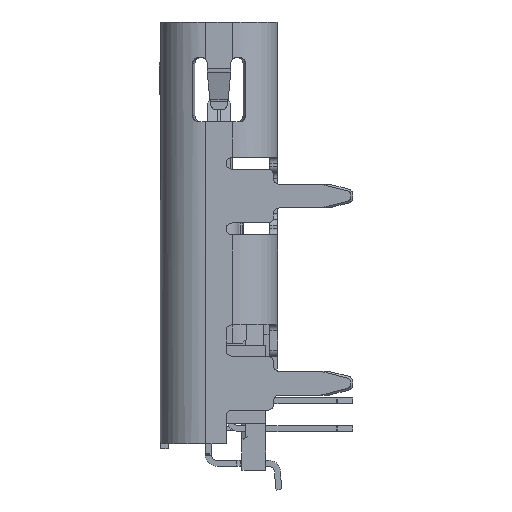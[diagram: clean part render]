
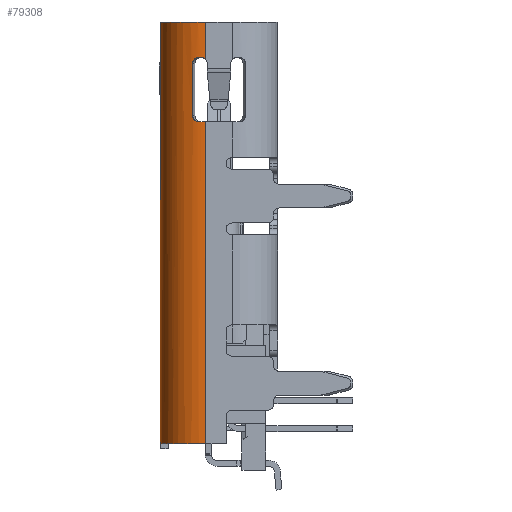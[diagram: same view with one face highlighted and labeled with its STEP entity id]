
A CAD part, left-side view. The second image highlights one B-rep face of the part: STEP entity #79308.
In plain terms, the highlighted cylindrical face has radius 1.15 mm (diameter 2.3 mm), a partial arc.
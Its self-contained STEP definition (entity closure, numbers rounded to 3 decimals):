
#397 = EDGE_CURVE ( 'NONE', #11247, #44608, #60832, .T. ) ;
#448 = CARTESIAN_POINT ( 'NONE',  ( -3.22, 1.48, -10.617 ) ) ;
#972 = CARTESIAN_POINT ( 'NONE',  ( -4.327, 0.641, -0.96 ) ) ;
#1380 = CARTESIAN_POINT ( 'NONE',  ( -4.336, 0.608, -0.927 ) ) ;
#1744 = ORIENTED_EDGE ( 'NONE', *, *, #65600, .T. ) ;
#1858 = ORIENTED_EDGE ( 'NONE', *, *, #60108, .T. ) ;
#2756 = CARTESIAN_POINT ( 'NONE',  ( -4.37, 0.33, -10.66 ) ) ;
#3934 = VECTOR ( 'NONE', #68392, 1000. ) ;
#4470 = EDGE_CURVE ( 'NONE', #13061, #30670, #74365, .T. ) ;
#4800 = VECTOR ( 'NONE', #14713, 1000. ) ;
#4965 = CARTESIAN_POINT ( 'NONE',  ( -4.32, 0.666, -2.386 ) ) ;
#5761 = DIRECTION ( 'NONE',  ( 0., 0., 1. ) ) ;
#7264 = VECTOR ( 'NONE', #81044, 1000. ) ;
#8343 = CARTESIAN_POINT ( 'NONE',  ( -3.344, 1.473, -10.66 ) ) ;
#10300 = DIRECTION ( 'NONE',  ( 0., 0., 1. ) ) ;
#10534 = ORIENTED_EDGE ( 'NONE', *, *, #31519, .F. ) ;
#11247 = VERTEX_POINT ( 'NONE', #2756 ) ;
#11964 = VERTEX_POINT ( 'NONE', #77450 ) ;
#12611 = LINE ( 'NONE', #68449, #4800 ) ;
#13061 = VERTEX_POINT ( 'NONE', #448 ) ;
#13081 = FACE_OUTER_BOUND ( 'NONE', #25821, .T. ) ;
#14713 = DIRECTION ( 'NONE',  ( 0., 0., 1. ) ) ;
#14721 = EDGE_CURVE ( 'NONE', #78640, #18955, #33843, .T. ) ;
#14975 = CARTESIAN_POINT ( 'NONE',  ( -4.37, 0.33, -0.96 ) ) ;
#15723 = CARTESIAN_POINT ( 'NONE',  ( -4.37, 0.33, -0.96 ) ) ;
#17851 = CARTESIAN_POINT ( 'NONE',  ( -4.368, 0.404, -0.905 ) ) ;
#18009 = DIRECTION ( 'NONE',  ( -0.995, 0.104, 0. ) ) ;
#18865 = ORIENTED_EDGE ( 'NONE', *, *, #42015, .F. ) ;
#18955 = VERTEX_POINT ( 'NONE', #55147 ) ;
#19830 = DIRECTION ( 'NONE',  ( 0., 0., 1. ) ) ;
#22211 = AXIS2_PLACEMENT_3D ( 'NONE', #25096, #58203, #70258 ) ;
#23941 = ORIENTED_EDGE ( 'NONE', *, *, #75852, .F. ) ;
#25096 = CARTESIAN_POINT ( 'NONE',  ( -3.22, 0.33, -10.66 ) ) ;
#25158 = CARTESIAN_POINT ( 'NONE',  ( -4.327, 0.641, -2.46 ) ) ;
#25821 = EDGE_LOOP ( 'NONE', ( #55961, #10534, #23941, #1744, #28924, #65577, #18865, #1858, #81804, #79330, #43341, #68912 ) ) ;
#27589 = CARTESIAN_POINT ( 'NONE',  ( -4.32, 0.666, -1.034 ) ) ;
#27904 = CARTESIAN_POINT ( 'NONE',  ( -3.22, 1.48, 0. ) ) ;
#28873 = CARTESIAN_POINT ( 'NONE',  ( -4.346, 0.566, -0.905 ) ) ;
#28924 = ORIENTED_EDGE ( 'NONE', *, *, #14721, .F. ) ;
#30670 = VERTEX_POINT ( 'NONE', #8343 ) ;
#30834 = AXIS2_PLACEMENT_3D ( 'NONE', #78312, #19830, #31874 ) ;
#31519 = EDGE_CURVE ( 'NONE', #60516, #44608, #44081, .T. ) ;
#31724 = AXIS2_PLACEMENT_3D ( 'NONE', #69623, #10300, #55878 ) ;
#31874 = DIRECTION ( 'NONE',  ( 0., 1., 0. ) ) ;
#33843 = B_SPLINE_CURVE_WITH_KNOTS ( 'NONE', 3,
 ( #41360, #80935, #28873, #1380, #972, #66323, #27589, #55120 ),
 .UNSPECIFIED., .F., .F.,
 ( 4, 1, 1, 1, 1, 4 ),
 ( 0., 0.2, 0.4, 0.6, 0.8, 1. ),
 .UNSPECIFIED. ) ;
#34325 = AXIS2_PLACEMENT_3D ( 'NONE', #46159, #5761, #52186 ) ;
#34424 = CIRCLE ( 'NONE', #82521, 1.15 ) ;
#34647 = CARTESIAN_POINT ( 'NONE',  ( -3.22, 1.48, -10.617 ) ) ;
#35081 = CARTESIAN_POINT ( 'NONE',  ( -3.344, 1.473, -10.66 ) ) ;
#35700 = CARTESIAN_POINT ( 'NONE',  ( -4.32, 0.666, -2.37 ) ) ;
#36051 = B_SPLINE_CURVE_WITH_KNOTS ( 'NONE', 3,
 ( #15723, #41948, #68174, #17851, #50931, #71556 ),
 .UNSPECIFIED., .F., .F.,
 ( 4, 1, 1, 4 ),
 ( 0., 0.333, 0.667, 1. ),
 .UNSPECIFIED. ) ;
#36114 = CARTESIAN_POINT ( 'NONE',  ( -4.37, 0.33, -2.52 ) ) ;
#37211 = CARTESIAN_POINT ( 'NONE',  ( -4.354, 0.52, -2.52 ) ) ;
#37342 = VERTEX_POINT ( 'NONE', #84644 ) ;
#41360 = CARTESIAN_POINT ( 'NONE',  ( -4.354, 0.52, -0.9 ) ) ;
#41675 = DIRECTION ( 'NONE',  ( 0., 0., -1. ) ) ;
#41948 = CARTESIAN_POINT ( 'NONE',  ( -4.37, 0.339, -0.948 ) ) ;
#42015 = EDGE_CURVE ( 'NONE', #70313, #71728, #36051, .T. ) ;
#43341 = ORIENTED_EDGE ( 'NONE', *, *, #4470, .T. ) ;
#44081 = CIRCLE ( 'NONE', #31724, 1.15 ) ;
#44372 = EDGE_CURVE ( 'NONE', #82196, #37342, #62441, .T. ) ;
#44523 = CARTESIAN_POINT ( 'NONE',  ( -4.352, 0.536, -2.52 ) ) ;
#44608 = VERTEX_POINT ( 'NONE', #36114 ) ;
#45347 = CARTESIAN_POINT ( 'NONE',  ( -4.336, 0.608, -2.493 ) ) ;
#46159 = CARTESIAN_POINT ( 'NONE',  ( -3.22, 0.33, -12.2 ) ) ;
#46743 = EDGE_CURVE ( 'NONE', #82196, #13061, #80818, .T. ) ;
#46983 = EDGE_CURVE ( 'NONE', #71728, #78640, #34424, .T. ) ;
#50547 = CARTESIAN_POINT ( 'NONE',  ( -4.321, 0.661, -2.417 ) ) ;
#50931 = CARTESIAN_POINT ( 'NONE',  ( -4.365, 0.435, -0.9 ) ) ;
#52186 = DIRECTION ( 'NONE',  ( 1., 0., 0. ) ) ;
#53565 = CARTESIAN_POINT ( 'NONE',  ( -3.298, 1.478, -10.66 ) ) ;
#53730 = EDGE_CURVE ( 'NONE', #11247, #30670, #66073, .T. ) ;
#54205 = LINE ( 'NONE', #35700, #3934 ) ;
#55120 = CARTESIAN_POINT ( 'NONE',  ( -4.32, 0.666, -1.05 ) ) ;
#55147 = CARTESIAN_POINT ( 'NONE',  ( -4.32, 0.666, -1.05 ) ) ;
#55878 = DIRECTION ( 'NONE',  ( -0.986, 0.165, 0. ) ) ;
#55961 = ORIENTED_EDGE ( 'NONE', *, *, #397, .T. ) ;
#57921 = CARTESIAN_POINT ( 'NONE',  ( -4.364, 0.45, -0.9 ) ) ;
#58203 = DIRECTION ( 'NONE',  ( 0., 0., -1. ) ) ;
#60108 = EDGE_CURVE ( 'NONE', #70313, #37342, #12611, .T. ) ;
#60394 = CARTESIAN_POINT ( 'NONE',  ( -4.37, 0.33, -10.66 ) ) ;
#60516 = VERTEX_POINT ( 'NONE', #64511 ) ;
#60832 = LINE ( 'NONE', #60394, #7264 ) ;
#62441 = CIRCLE ( 'NONE', #30834, 1.15 ) ;
#64511 = CARTESIAN_POINT ( 'NONE',  ( -4.354, 0.52, -2.52 ) ) ;
#64629 = VECTOR ( 'NONE', #41675, 1000. ) ;
#64645 = CYLINDRICAL_SURFACE ( 'NONE', #34325, 1.15 ) ;
#65577 = ORIENTED_EDGE ( 'NONE', *, *, #46983, .F. ) ;
#65600 = EDGE_CURVE ( 'NONE', #11964, #18955, #54205, .T. ) ;
#66073 = CIRCLE ( 'NONE', #22211, 1.15 ) ;
#66323 = CARTESIAN_POINT ( 'NONE',  ( -4.321, 0.661, -1.003 ) ) ;
#66905 = CARTESIAN_POINT ( 'NONE',  ( -3.256, 1.48, -10.646 ) ) ;
#68174 = CARTESIAN_POINT ( 'NONE',  ( -4.37, 0.362, -0.926 ) ) ;
#68392 = DIRECTION ( 'NONE',  ( 0., 0., 1. ) ) ;
#68449 = CARTESIAN_POINT ( 'NONE',  ( -4.37, 0.33, -0.96 ) ) ;
#68912 = ORIENTED_EDGE ( 'NONE', *, *, #53730, .F. ) ;
#69613 = CARTESIAN_POINT ( 'NONE',  ( -3.22, 0.33, -0.9 ) ) ;
#69623 = CARTESIAN_POINT ( 'NONE',  ( -3.22, 0.33, -2.52 ) ) ;
#70258 = DIRECTION ( 'NONE',  ( -1., 0., 0. ) ) ;
#70313 = VERTEX_POINT ( 'NONE', #14975 ) ;
#71556 = CARTESIAN_POINT ( 'NONE',  ( -4.364, 0.45, -0.9 ) ) ;
#71728 = VERTEX_POINT ( 'NONE', #57921 ) ;
#74365 = B_SPLINE_CURVE_WITH_KNOTS ( 'NONE', 3,
 ( #34647, #66905, #53565, #35081 ),
 .UNSPECIFIED., .F., .F.,
 ( 4, 4 ),
 ( 0., 1. ),
 .UNSPECIFIED. ) ;
#75852 = EDGE_CURVE ( 'NONE', #11964, #60516, #82555, .T. ) ;
#77450 = CARTESIAN_POINT ( 'NONE',  ( -4.32, 0.666, -2.37 ) ) ;
#77636 = CARTESIAN_POINT ( 'NONE',  ( -4.346, 0.567, -2.515 ) ) ;
#77772 = DIRECTION ( 'NONE',  ( 0., 0., -1. ) ) ;
#78067 = CARTESIAN_POINT ( 'NONE',  ( -4.32, 0.666, -2.37 ) ) ;
#78312 = CARTESIAN_POINT ( 'NONE',  ( -3.22, 0.33, 0. ) ) ;
#78640 = VERTEX_POINT ( 'NONE', #82441 ) ;
#79308 = ADVANCED_FACE ( 'NONE', ( #13081 ), #64645, .T. ) ;
#79330 = ORIENTED_EDGE ( 'NONE', *, *, #46743, .T. ) ;
#80096 = CARTESIAN_POINT ( 'NONE',  ( -3.22, 1.48, 0. ) ) ;
#80818 = LINE ( 'NONE', #27904, #64629 ) ;
#80935 = CARTESIAN_POINT ( 'NONE',  ( -4.352, 0.535, -0.9 ) ) ;
#81044 = DIRECTION ( 'NONE',  ( 0., 0., 1. ) ) ;
#81804 = ORIENTED_EDGE ( 'NONE', *, *, #44372, .F. ) ;
#82196 = VERTEX_POINT ( 'NONE', #80096 ) ;
#82441 = CARTESIAN_POINT ( 'NONE',  ( -4.354, 0.52, -0.9 ) ) ;
#82521 = AXIS2_PLACEMENT_3D ( 'NONE', #69613, #77772, #18009 ) ;
#82555 = B_SPLINE_CURVE_WITH_KNOTS ( 'NONE', 3,
 ( #78067, #4965, #50547, #25158, #45347, #77636, #44523, #37211 ),
 .UNSPECIFIED., .F., .F.,
 ( 4, 1, 1, 1, 1, 4 ),
 ( 0., 0.2, 0.4, 0.6, 0.8, 1. ),
 .UNSPECIFIED. ) ;
#84644 = CARTESIAN_POINT ( 'NONE',  ( -4.37, 0.33, 0. ) ) ;
